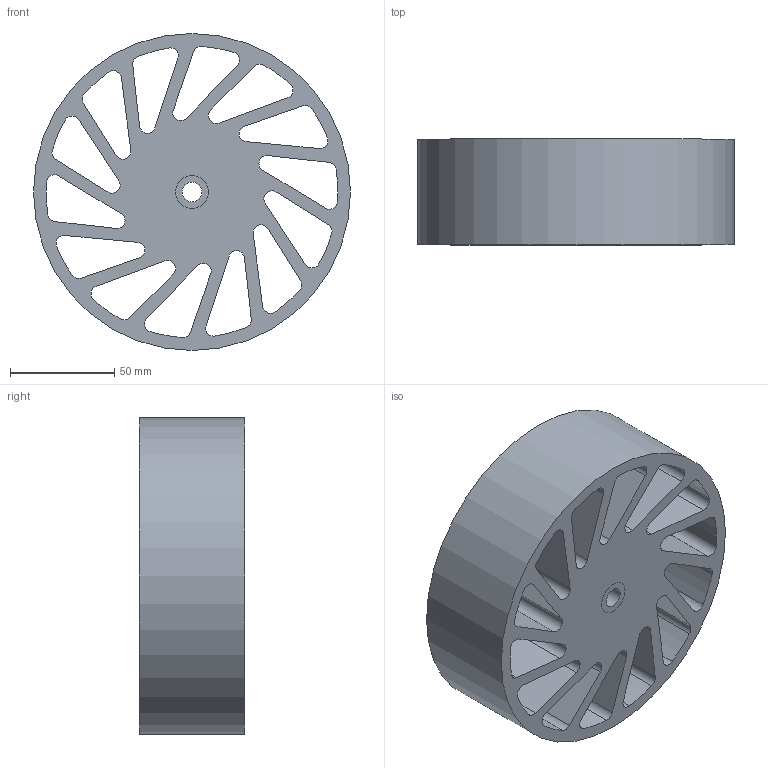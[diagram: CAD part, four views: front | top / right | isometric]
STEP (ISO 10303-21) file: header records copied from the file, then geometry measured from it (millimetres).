
FILE_DESCRIPTION(/* description */ (''),/* implementation_level */ '2;1');
FILE_NAME(/* name */ 'C:\Users\Owner\Desktop\Meridian Stuff\Oilite\NCWOB-590-XXX.stp',/* time_stamp */ '2023-05-22T17:23:20-05:00',/* author */ ('ASG'),/* organization */ ('Meridian Laboratory '),/* preprocessor_version */ 'ST-DEVELOPER v19',/* originating_system */ 'Autodesk Inventor 2023',/* authorisation */ '');
FILE_SCHEMA (('AUTOMOTIVE_DESIGN { 1 0 10303 214 3 1 1 }'));
Length unit declared in the file: inch
Products named in the file (1): NCWOB-540-XXX
Bounding box: 152.4 x 50.8 x 152.4 mm (x, y, z)
Volume: 515962.4 mm3; surface area: 125029.7 mm2
Topology: 2 solids, 2 shells, 92 faces, 264 edges, 176 vertices
Faces by surface type: cylinder 60, plane 32
Full cylindrical faces by diameter (mm): 9.55 x1, 15.875 x2, 152.4 x1
Entity records: 3285 total; most frequent: DIRECTION 570, CARTESIAN_POINT 533, ORIENTED_EDGE 528, EDGE_CURVE 264, AXIS2_PLACEMENT_3D 213, VERTEX_POINT 176, LINE 144, VECTOR 144
